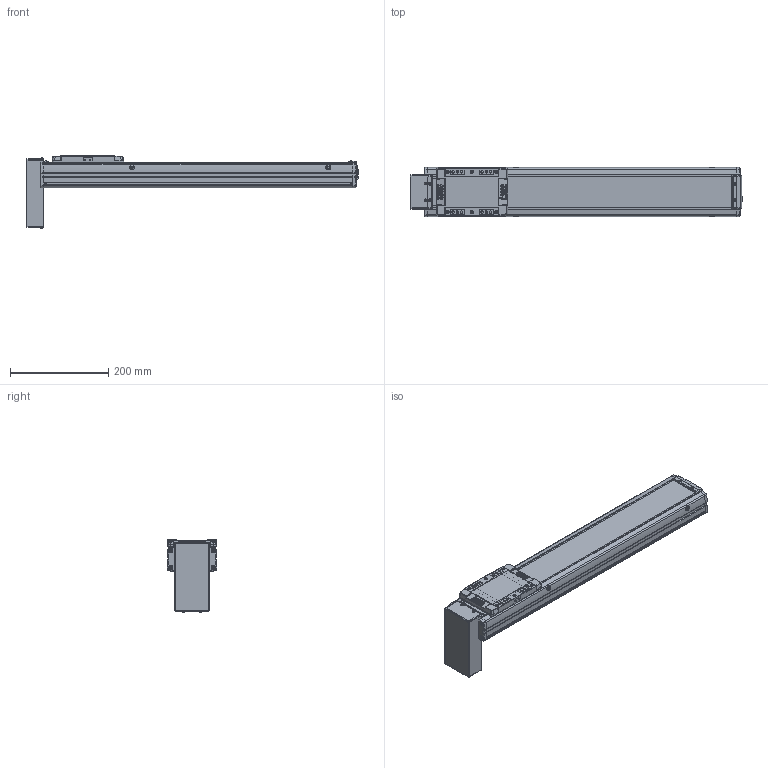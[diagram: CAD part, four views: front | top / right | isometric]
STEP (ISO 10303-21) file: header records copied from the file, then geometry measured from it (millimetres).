
FILE_DESCRIPTION(('STEP AP214'),'1');
FILE_NAME('Z:/Web/3D/SAN100/SAN100 양산용 (STEP)/SAN100ㅁㅁ-450PB.stp','2013-04-26T00:39:38',(' '),(' '),'Spatial InterOp 3D',' ',' ');
FILE_SCHEMA(('automotive_design'));
Length unit declared in the file: millimetre
Products named in the file (37): SUS COVER; SFX-SAN100; RRCV-SAN100; 스크루 : Round - M4.0 x 10.0; M3.0 x 6.0; 스크루 : Round - M3.0 x 6.0; FRBL-SAN100; SLBL-SAN100; SLCV-SAN100; 스크루 : Countersunk - M3.0 x 6.0; BASE; 스크루 : Round - M5.0 x 6.0; BTCV-SAN100; FRCV-SAN100
Bounding box: 676.5 x 100 x 148.36 mm (x, y, z)
Volume: 2129981.5 mm3; surface area: 493746.6 mm2
Topology: 37 solids, 40 shells, 2024 faces, 5250 edges, 3379 vertices
Faces by surface type: plane 1011, cylinder 733, cone 186, sphere 52, torus 30, bspline 12
Entity records: 79404 total; most frequent: CARTESIAN_POINT 11736, DIRECTION 11147, ORIENTED_EDGE 10336, EDGE_CURVE 5168, AXIS2_PLACEMENT_3D 4019, VERTEX_POINT 3379, LINE 3109, VECTOR 3109
